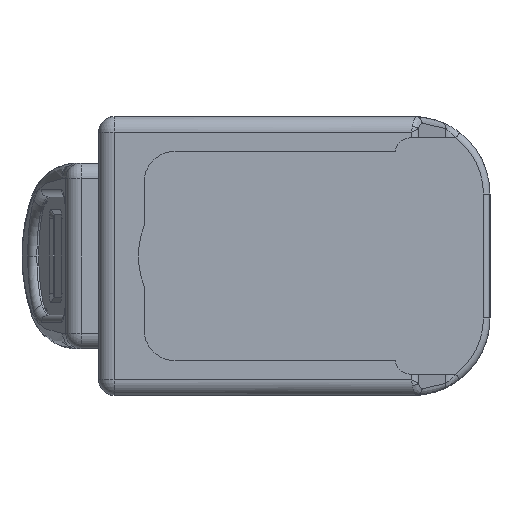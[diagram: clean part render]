
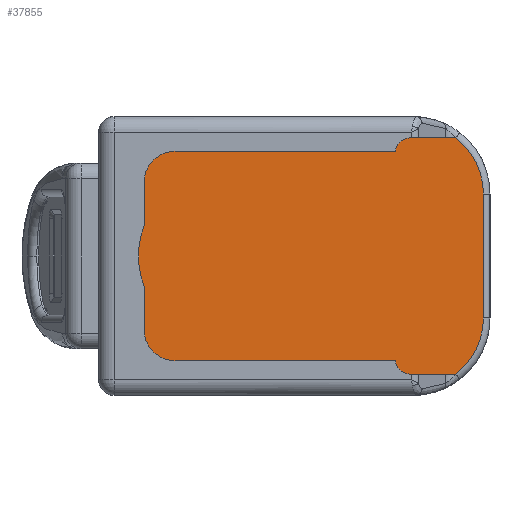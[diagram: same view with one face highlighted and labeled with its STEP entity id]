
A CAD part, left-side view. The second image highlights one B-rep face of the part: STEP entity #37855.
In plain terms, the highlighted planar face has unit normal (-1, 0, 0).
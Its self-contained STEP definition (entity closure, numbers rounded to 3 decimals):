
#732 = AXIS2_PLACEMENT_3D ( 'NONE', #66046, #82767, #109408 ) ;
#1920 = DIRECTION ( 'NONE',  ( 0., 0., -1. ) ) ;
#2289 = LINE ( 'NONE', #28277, #34297 ) ;
#2695 = VERTEX_POINT ( 'NONE', #62332 ) ;
#3168 = VERTEX_POINT ( 'NONE', #35277 ) ;
#3322 = CARTESIAN_POINT ( 'NONE',  ( -329.6, -66.8, 16. ) ) ;
#3985 = CARTESIAN_POINT ( 'NONE',  ( -329.6, 11.05, 30.5 ) ) ;
#4509 = AXIS2_PLACEMENT_3D ( 'NONE', #110720, #75407, #93316 ) ;
#5383 = LINE ( 'NONE', #84478, #69811 ) ;
#5722 = CIRCLE ( 'NONE', #96087, 18.3 ) ;
#5941 = ORIENTED_EDGE ( 'NONE', *, *, #111106, .T. ) ;
#6484 = LINE ( 'NONE', #24427, #78842 ) ;
#6917 = ORIENTED_EDGE ( 'NONE', *, *, #92301, .T. ) ;
#7953 = DIRECTION ( 'NONE',  ( 0., 0., -1. ) ) ;
#7967 = DIRECTION ( 'NONE',  ( 1., 0., 0. ) ) ;
#8370 = VECTOR ( 'NONE', #12229, 1000. ) ;
#8754 = ORIENTED_EDGE ( 'NONE', *, *, #56579, .T. ) ;
#12229 = DIRECTION ( 'NONE',  ( 0., 0., 1. ) ) ;
#13678 = ORIENTED_EDGE ( 'NONE', *, *, #23363, .F. ) ;
#15902 = ORIENTED_EDGE ( 'NONE', *, *, #20450, .T. ) ;
#18397 = CARTESIAN_POINT ( 'NONE',  ( -329.6, 0., 0. ) ) ;
#20419 = CARTESIAN_POINT ( 'NONE',  ( -329.6, -48.5, -16. ) ) ;
#20450 = EDGE_CURVE ( 'NONE', #95180, #38944, #29565, .T. ) ;
#20936 = CARTESIAN_POINT ( 'NONE',  ( -329.6, -66.8, 27. ) ) ;
#21079 = DIRECTION ( 'NONE',  ( 0., 0., -1. ) ) ;
#21232 = ORIENTED_EDGE ( 'NONE', *, *, #59653, .F. ) ;
#21540 = CARTESIAN_POINT ( 'NONE',  ( -329.6, 11.05, -20.75 ) ) ;
#23363 = EDGE_CURVE ( 'NONE', #54585, #47542, #6484, .T. ) ;
#24427 = CARTESIAN_POINT ( 'NONE',  ( -329.6, 20.8, -30.5 ) ) ;
#27150 = DIRECTION ( 'NONE',  ( 0., -1., 0. ) ) ;
#28277 = CARTESIAN_POINT ( 'NONE',  ( -329.6, 20.8, 30.5 ) ) ;
#28438 = CIRCLE ( 'NONE', #732, 9.75 ) ;
#29066 = CARTESIAN_POINT ( 'NONE',  ( -329.6, 20.8, -7.901 ) ) ;
#29472 = VERTEX_POINT ( 'NONE', #106815 ) ;
#29565 = LINE ( 'NONE', #20936, #8370 ) ;
#30756 = AXIS2_PLACEMENT_3D ( 'NONE', #21540, #101761, #56691 ) ;
#31645 = VERTEX_POINT ( 'NONE', #66756 ) ;
#32160 = CIRCLE ( 'NONE', #4509, 18.3 ) ;
#32791 = VERTEX_POINT ( 'NONE', #92233 ) ;
#32981 = EDGE_CURVE ( 'NONE', #59472, #3168, #28438, .T. ) ;
#34297 = VECTOR ( 'NONE', #27150, 1000. ) ;
#35277 = CARTESIAN_POINT ( 'NONE',  ( -329.6, 20.8, 20.75 ) ) ;
#36158 = CARTESIAN_POINT ( 'NONE',  ( -329.6, 20.8, 7.901 ) ) ;
#36697 = ORIENTED_EDGE ( 'NONE', *, *, #65179, .F. ) ;
#37855 = ADVANCED_FACE ( 'NONE', ( #79546 ), #70861, .T. ) ;
#38289 = DIRECTION ( 'NONE',  ( 0., 0., -1. ) ) ;
#38839 = CARTESIAN_POINT ( 'NONE',  ( -329.6, 20.8, -30.5 ) ) ;
#38944 = VERTEX_POINT ( 'NONE', #3322 ) ;
#41058 = CARTESIAN_POINT ( 'NONE',  ( -329.6, -59.648, 30.512 ) ) ;
#41664 = VECTOR ( 'NONE', #38289, 1000. ) ;
#43292 = VECTOR ( 'NONE', #100133, 1000. ) ;
#45388 = DIRECTION ( 'NONE',  ( 0., -1., 0. ) ) ;
#47542 = VERTEX_POINT ( 'NONE', #29066 ) ;
#49615 = ORIENTED_EDGE ( 'NONE', *, *, #113688, .T. ) ;
#49796 = EDGE_CURVE ( 'NONE', #32791, #29472, #111120, .T. ) ;
#49829 = EDGE_CURVE ( 'NONE', #76875, #3168, #109980, .T. ) ;
#51000 = VECTOR ( 'NONE', #79198, 1000. ) ;
#51237 = CARTESIAN_POINT ( 'NONE',  ( -329.6, -68.5, 27. ) ) ;
#52486 = EDGE_CURVE ( 'NONE', #2695, #54585, #80561, .T. ) ;
#54585 = VERTEX_POINT ( 'NONE', #67120 ) ;
#56579 = EDGE_CURVE ( 'NONE', #29472, #95180, #5722, .T. ) ;
#56691 = DIRECTION ( 'NONE',  ( 0., 0., 1. ) ) ;
#57941 = ORIENTED_EDGE ( 'NONE', *, *, #49796, .T. ) ;
#59472 = VERTEX_POINT ( 'NONE', #3985 ) ;
#59615 = DIRECTION ( 'NONE',  ( 0., 0., 1. ) ) ;
#59653 = EDGE_CURVE ( 'NONE', #47542, #76875, #77275, .T. ) ;
#60542 = AXIS2_PLACEMENT_3D ( 'NONE', #51237, #86488, #7953 ) ;
#62139 = ORIENTED_EDGE ( 'NONE', *, *, #49829, .F. ) ;
#62332 = CARTESIAN_POINT ( 'NONE',  ( -329.6, 11.05, -30.5 ) ) ;
#65179 = EDGE_CURVE ( 'NONE', #59472, #31645, #2289, .T. ) ;
#66046 = CARTESIAN_POINT ( 'NONE',  ( -329.6, 11.05, 20.75 ) ) ;
#66756 = CARTESIAN_POINT ( 'NONE',  ( -329.6, -59.648, 30.5 ) ) ;
#67120 = CARTESIAN_POINT ( 'NONE',  ( -329.6, 20.8, -20.75 ) ) ;
#69811 = VECTOR ( 'NONE', #21079, 1000. ) ;
#70861 = PLANE ( 'NONE',  #60542 ) ;
#75407 = DIRECTION ( 'NONE',  ( -1., 0., 0. ) ) ;
#76875 = VERTEX_POINT ( 'NONE', #36158 ) ;
#77275 = CIRCLE ( 'NONE', #106840, 22.25 ) ;
#77497 = CARTESIAN_POINT ( 'NONE',  ( -329.6, 20.8, -30.5 ) ) ;
#78842 = VECTOR ( 'NONE', #59615, 1000. ) ;
#79198 = DIRECTION ( 'NONE',  ( 0., -1., 0. ) ) ;
#79310 = VERTEX_POINT ( 'NONE', #41058 ) ;
#79546 = FACE_OUTER_BOUND ( 'NONE', #86263, .T. ) ;
#80561 = CIRCLE ( 'NONE', #30756, 9.75 ) ;
#81030 = DIRECTION ( 'NONE',  ( -1., 0., 0. ) ) ;
#82767 = DIRECTION ( 'NONE',  ( -1., 0., 0. ) ) ;
#84236 = ORIENTED_EDGE ( 'NONE', *, *, #52486, .F. ) ;
#84478 = CARTESIAN_POINT ( 'NONE',  ( -329.6, -59.648, 27. ) ) ;
#86263 = EDGE_LOOP ( 'NONE', ( #62139, #21232, #13678, #84236, #5941, #57941, #8754, #15902, #49615, #6917, #36697, #100648 ) ) ;
#86488 = DIRECTION ( 'NONE',  ( -1., 0., 0. ) ) ;
#87257 = LINE ( 'NONE', #77497, #51000 ) ;
#92233 = CARTESIAN_POINT ( 'NONE',  ( -329.6, -59.648, -30.5 ) ) ;
#92301 = EDGE_CURVE ( 'NONE', #79310, #31645, #5383, .T. ) ;
#93316 = DIRECTION ( 'NONE',  ( 0., 0., -1. ) ) ;
#95180 = VERTEX_POINT ( 'NONE', #111884 ) ;
#96087 = AXIS2_PLACEMENT_3D ( 'NONE', #20419, #81030, #1920 ) ;
#100133 = DIRECTION ( 'NONE',  ( 0., 0., 1. ) ) ;
#100648 = ORIENTED_EDGE ( 'NONE', *, *, #32981, .T. ) ;
#101761 = DIRECTION ( 'NONE',  ( 1., 0., 0. ) ) ;
#106815 = CARTESIAN_POINT ( 'NONE',  ( -329.6, -59.648, -30.512 ) ) ;
#106840 = AXIS2_PLACEMENT_3D ( 'NONE', #18397, #7967, #45388 ) ;
#108855 = CARTESIAN_POINT ( 'NONE',  ( -329.6, -59.648, 27. ) ) ;
#109408 = DIRECTION ( 'NONE',  ( 0., 0., -1. ) ) ;
#109980 = LINE ( 'NONE', #38839, #43292 ) ;
#110720 = CARTESIAN_POINT ( 'NONE',  ( -329.6, -48.5, 16. ) ) ;
#111106 = EDGE_CURVE ( 'NONE', #2695, #32791, #87257, .T. ) ;
#111120 = LINE ( 'NONE', #108855, #41664 ) ;
#111884 = CARTESIAN_POINT ( 'NONE',  ( -329.6, -66.8, -16. ) ) ;
#113688 = EDGE_CURVE ( 'NONE', #38944, #79310, #32160, .T. ) ;
